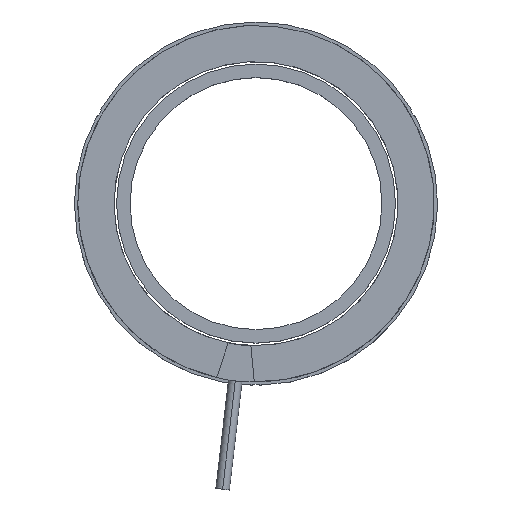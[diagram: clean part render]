
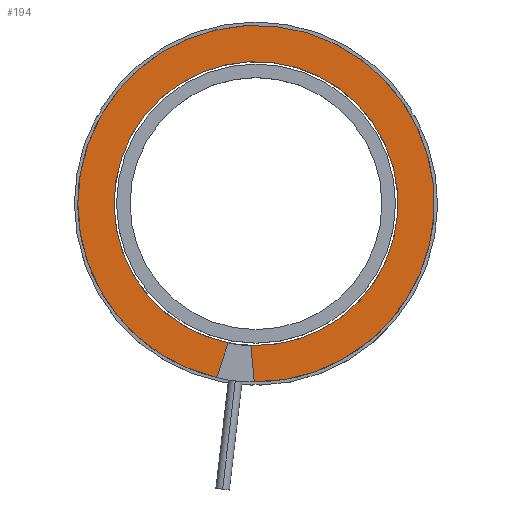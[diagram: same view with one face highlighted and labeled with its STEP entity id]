
A CAD part, top view. The second image highlights one B-rep face of the part: STEP entity #194.
In plain terms, the highlighted planar face has unit normal (0, 0, 1).
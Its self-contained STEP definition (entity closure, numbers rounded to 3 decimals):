
#17 = VERTEX_POINT ( 'NONE', #717 ) ;
#21 = DIRECTION ( 'NONE',  ( 0., 0., 1. ) ) ;
#64 = CIRCLE ( 'NONE', #985, 78.5 ) ;
#75 = CARTESIAN_POINT ( 'NONE',  ( 18.24, 139.691, 200.786 ) ) ;
#152 = EDGE_CURVE ( 'NONE', #583, #419, #163, .T. ) ;
#163 = CIRCLE ( 'NONE', #436, 62.55 ) ;
#166 = ORIENTED_EDGE ( 'NONE', *, *, #152, .F. ) ;
#167 = CARTESIAN_POINT ( 'NONE',  ( 15.969, 77.183, 200.786 ) ) ;
#177 = VECTOR ( 'NONE', #415, 1000. ) ;
#192 = CARTESIAN_POINT ( 'NONE',  ( 25.5, 201.819, 200.786 ) ) ;
#194 = ADVANCED_FACE ( 'NONE', ( #468 ), #373, .T. ) ;
#259 = EDGE_CURVE ( 'NONE', #17, #748, #443, .T. ) ;
#263 = LINE ( 'NONE', #431, #177 ) ;
#289 = CARTESIAN_POINT ( 'NONE',  ( 18.24, 139.691, 200.786 ) ) ;
#366 = DIRECTION ( 'NONE',  ( 0., 0., 1. ) ) ;
#373 = PLANE ( 'NONE',  #595 ) ;
#410 = DIRECTION ( 'NONE',  ( -0.093, 0.996, 0. ) ) ;
#415 = DIRECTION ( 'NONE',  ( -0.32, -0.947, 0. ) ) ;
#419 = VERTEX_POINT ( 'NONE', #880 ) ;
#431 = CARTESIAN_POINT ( 'NONE',  ( 6.036, 78.343, 200.786 ) ) ;
#436 = AXIS2_PLACEMENT_3D ( 'NONE', #910, #366, #746 ) ;
#443 = LINE ( 'NONE', #858, #1062 ) ;
#463 = DIRECTION ( 'NONE',  ( -0.116, -0.993, 0. ) ) ;
#468 = FACE_OUTER_BOUND ( 'NONE', #844, .T. ) ;
#504 = CARTESIAN_POINT ( 'NONE',  ( 27.352, 217.661, 200.786 ) ) ;
#550 = AXIS2_PLACEMENT_3D ( 'NONE', #682, #21, #955 ) ;
#558 = EDGE_CURVE ( 'NONE', #748, #583, #919, .T. ) ;
#583 = VERTEX_POINT ( 'NONE', #192 ) ;
#590 = ORIENTED_EDGE ( 'NONE', *, *, #259, .F. ) ;
#595 = AXIS2_PLACEMENT_3D ( 'NONE', #75, #1121, #1195 ) ;
#611 = ORIENTED_EDGE ( 'NONE', *, *, #649, .F. ) ;
#622 = CARTESIAN_POINT ( 'NONE',  ( 18.24, 139.691, 200.786 ) ) ;
#629 = ORIENTED_EDGE ( 'NONE', *, *, #558, .F. ) ;
#649 = EDGE_CURVE ( 'NONE', #419, #678, #263, .T. ) ;
#678 = VERTEX_POINT ( 'NONE', #1077 ) ;
#682 = CARTESIAN_POINT ( 'NONE',  ( 18.24, 139.691, 200.786 ) ) ;
#714 = ORIENTED_EDGE ( 'NONE', *, *, #1160, .T. ) ;
#717 = CARTESIAN_POINT ( 'NONE',  ( 17.461, 61.195, 200.786 ) ) ;
#746 = DIRECTION ( 'NONE',  ( -0.116, -0.993, 0. ) ) ;
#748 = VERTEX_POINT ( 'NONE', #167 ) ;
#783 = DIRECTION ( 'NONE',  ( 0., 0., 1. ) ) ;
#825 = DIRECTION ( 'NONE',  ( 0., 0., 1. ) ) ;
#844 = EDGE_LOOP ( 'NONE', ( #590, #714, #1027, #611, #166, #629 ) ) ;
#846 = AXIS2_PLACEMENT_3D ( 'NONE', #289, #825, #463 ) ;
#858 = CARTESIAN_POINT ( 'NONE',  ( 15.969, 77.183, 200.786 ) ) ;
#880 = CARTESIAN_POINT ( 'NONE',  ( 6.036, 78.343, 200.786 ) ) ;
#900 = CIRCLE ( 'NONE', #550, 78.5 ) ;
#910 = CARTESIAN_POINT ( 'NONE',  ( 18.24, 139.691, 200.786 ) ) ;
#919 = CIRCLE ( 'NONE', #846, 62.55 ) ;
#955 = DIRECTION ( 'NONE',  ( -0.116, -0.993, 0. ) ) ;
#985 = AXIS2_PLACEMENT_3D ( 'NONE', #622, #783, #1163 ) ;
#1027 = ORIENTED_EDGE ( 'NONE', *, *, #1084, .T. ) ;
#1062 = VECTOR ( 'NONE', #410, 1000. ) ;
#1077 = CARTESIAN_POINT ( 'NONE',  ( 0.897, 63.131, 200.786 ) ) ;
#1084 = EDGE_CURVE ( 'NONE', #1214, #678, #64, .T. ) ;
#1121 = DIRECTION ( 'NONE',  ( 0., 0., 1. ) ) ;
#1160 = EDGE_CURVE ( 'NONE', #17, #1214, #900, .T. ) ;
#1163 = DIRECTION ( 'NONE',  ( -0.116, -0.993, 0. ) ) ;
#1195 = DIRECTION ( 'NONE',  ( -0.116, -0.993, 0. ) ) ;
#1214 = VERTEX_POINT ( 'NONE', #504 ) ;
